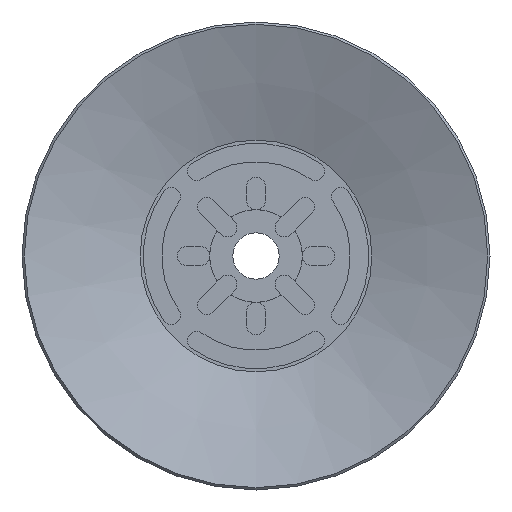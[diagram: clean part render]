
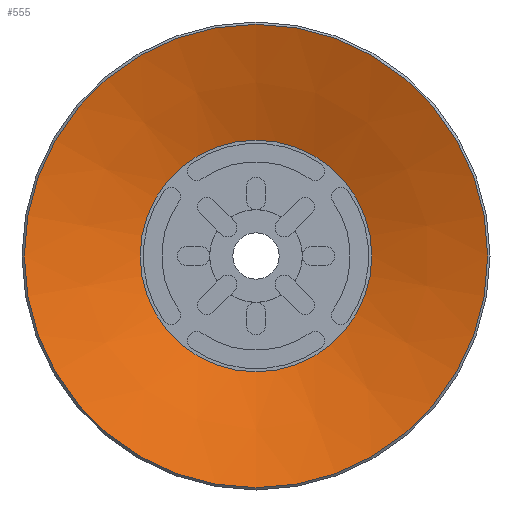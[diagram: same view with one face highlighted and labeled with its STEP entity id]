
A CAD part, front view. The second image highlights one B-rep face of the part: STEP entity #555.
In plain terms, the highlighted conical face has half-angle 70.201 degrees and reference radius 7.5 mm.
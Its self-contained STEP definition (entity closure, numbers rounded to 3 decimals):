
#555=ADVANCED_FACE('',(#923,#924),#925,.F.);
#923=FACE_BOUND('',#1307,.T.);
#924=FACE_OUTER_BOUND('',#1308,.T.);
#925=CONICAL_SURFACE('',#1309,7.5,1.225);
#1307=EDGE_LOOP('',(#2530));
#1308=EDGE_LOOP('',(#2531));
#1309=AXIS2_PLACEMENT_3D('',#2532,#2533,#2534);
#2530=ORIENTED_EDGE('',*,*,#2973,.F.);
#2531=ORIENTED_EDGE('',*,*,#2974,.T.);
#2532=CARTESIAN_POINT('',(0.0,0.0,2.7));
#2533=DIRECTION('',(0.0,0.,-1.0));
#2534=DIRECTION('',(0.0,1.0,0.));
#2973=EDGE_CURVE('',#3603,#3603,#3604,.T.);
#2974=EDGE_CURVE('',#3605,#3605,#3606,.T.);
#3603=VERTEX_POINT('',#4749);
#3604=CIRCLE('',#4750,7.5);
#3605=VERTEX_POINT('',#4751);
#3606=CIRCLE('',#4752,15.0);
#4749=CARTESIAN_POINT('',(0.0,7.5,2.7));
#4750=AXIS2_PLACEMENT_3D('',#5383,#5384,#5385);
#4751=CARTESIAN_POINT('',(0.0,15.0,0.));
#4752=AXIS2_PLACEMENT_3D('',#5386,#5387,#5388);
#5383=CARTESIAN_POINT('',(0.0,0.0,2.7));
#5384=DIRECTION('',(0.0,0.,-1.0));
#5385=DIRECTION('',(0.0,1.0,0.));
#5386=CARTESIAN_POINT('',(0.0,0.0,0.0));
#5387=DIRECTION('',(0.0,0.,-1.0));
#5388=DIRECTION('',(0.0,1.0,0.));
